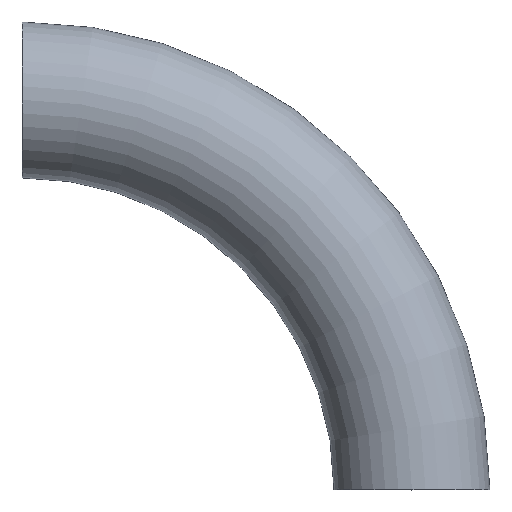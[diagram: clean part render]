
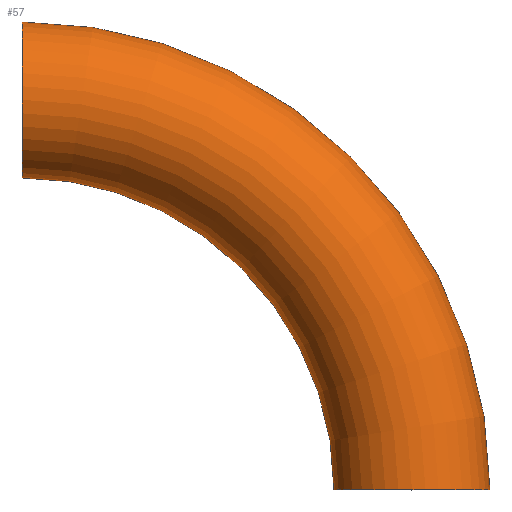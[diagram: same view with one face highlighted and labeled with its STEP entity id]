
A CAD part, top view. The second image highlights one B-rep face of the part: STEP entity #57.
In plain terms, the highlighted toroidal (fillet/blend) face has major radius 5 mm and minor radius 1 mm.
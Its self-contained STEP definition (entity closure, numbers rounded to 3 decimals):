
#1=CARTESIAN_POINT('',(0.,0.,0.));
#2=CARTESIAN_POINT('',(6.,0.,0.));
#3=CARTESIAN_POINT('',(0.,6.,0.));
#4=CARTESIAN_POINT('',(5.,0.,0.));
#5=CARTESIAN_POINT('',(0.,5.,0.));
#10=VERTEX_POINT('',#2);
#11=VERTEX_POINT('',#3);
#20=DIRECTION('',(0.,0.,1.));
#21=DIRECTION('',(1.,0.,0.));
#22=DIRECTION('',(0.,1.,0.));
#23=DIRECTION('',(-1.,0.,0.));
#24=AXIS2_PLACEMENT_3D('',#1,#20,#21);
#25=AXIS2_PLACEMENT_3D('',#4,#22,#21);
#26=AXIS2_PLACEMENT_3D('',#5,#23,#22);
#30=CIRCLE('',#25,1.);
#31=CIRCLE('',#26,1.);
#40=EDGE_CURVE('',#10,#10,#30,.T.);
#41=EDGE_CURVE('',#11,#11,#31,.T.);
#50=ORIENTED_EDGE('',*,*,#40,.T.);
#51=ORIENTED_EDGE('',*,*,#41,.F.);
#52=EDGE_LOOP('',(#50));
#53=EDGE_LOOP('',(#51));
#54=FACE_OUTER_BOUND('',#52,.T.);
#55=FACE_OUTER_BOUND('',#53,.T.);
#56=TOROIDAL_SURFACE('',#24,5.,1.);
#57=ADVANCED_FACE('',(#54,#55),#56,.T.);
